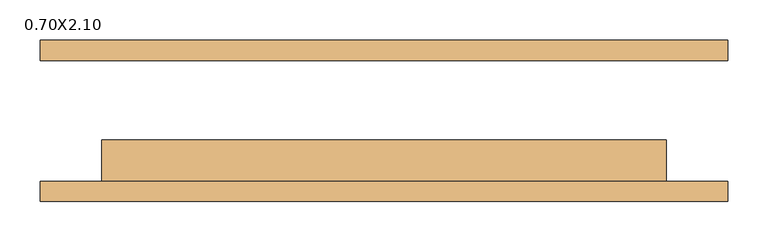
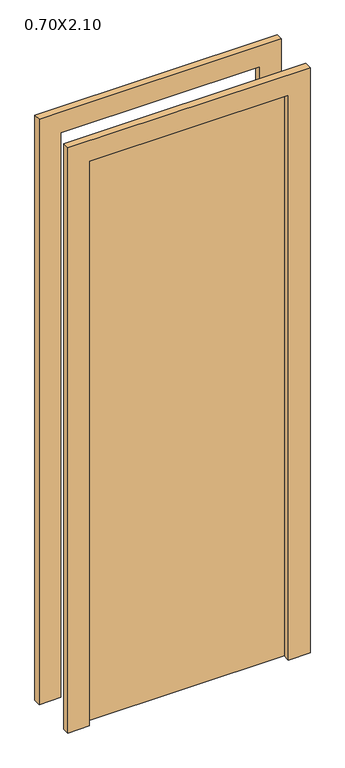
"""IFC4 building model written with IfcOpenShell, lengths in millimetres: door geometry, M_Folha única : 0.70X2.10."""

from ifc_helpers import new_model, si_unit, frame, origin, origin_with_axes, place, context, project, spatial, polyline, outline, extrude, source, transform, mapped, element, save


def door_0_70x2_10_6c6cf384(model_context):
    return source(origin(), model_context, "Body", "SweptSolid", [
        extrude(outline(polyline([(2176.0, -426.0), (0.0, -426.0), (0.0, -350.0), (2100.0, -350.0), (2100.0, 350.0), (0.0, 350.0), (0.0, 426.0), (2176.0, 426.0), (2176.0, -426.0)])), frame((0.0, -100.0, 0.0), z_axis=(0.0, 1.0, 0.0), x_axis=(0.0, 0.0, 1.0)), (0.0, 0.0, 1.0), 25.0),
        extrude(outline(polyline([(2176.0, 426.0), (2176.0, -426.0), (0.0, -426.0), (0.0, -350.0), (2100.0, -350.0), (2100.0, 350.0), (0.0, 350.0), (0.0, 426.0), (2176.0, 426.0)])), frame((0.0, 75.0, 0.0), z_axis=(0.0, 1.0, 0.0), x_axis=(0.0, 0.0, 1.0)), (0.0, 0.0, 1.0), 25.0),
        extrude(outline(polyline([(350.0, -24.0), (350.0, -75.0), (-350.0, -75.0), (-350.0, -24.0), (350.0, -24.0)])), origin_with_axes(), (0.0, 0.0, 1.0), 2100.0),
    ])


if __name__ == "__main__":
    model = new_model("IFC4")
    model_context = context("Model", 3, world=origin())
    ifc_project = project(units=[si_unit("LENGTHUNIT", "METRE", prefix="MILLI")], contexts=[model_context])
    site = spatial("IfcSite", under=ifc_project)
    building = spatial("IfcBuilding", under=site)
    placement = place(None, origin())
    door_0_70x2_10_shape = door_0_70x2_10_6c6cf384(model_context)
    element("IfcDoor", 1, ObjectType="M_Folha única : 0.70X2.10", at=placement, inside=building, context=model_context, shape_type="MappedRepresentation", body=[
        mapped(door_0_70x2_10_shape, transform((0.0, 0.0, 0.0), x_axis=(1.0, 0.0, 0.0), y_axis=(0.0, 1.0, 0.0), z_axis=(0.0, 0.0, 1.0))),
    ])
    save(model, "model.ifc")
